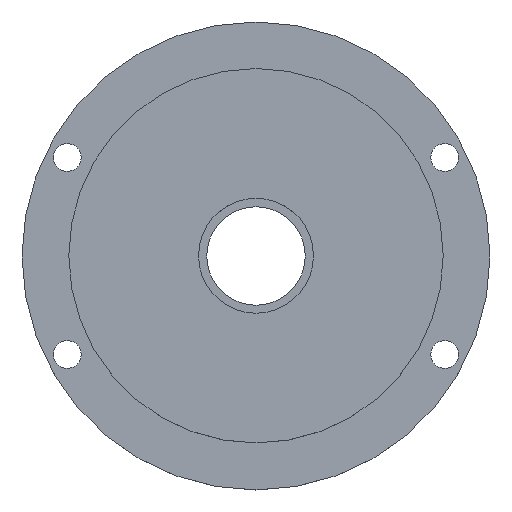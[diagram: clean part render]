
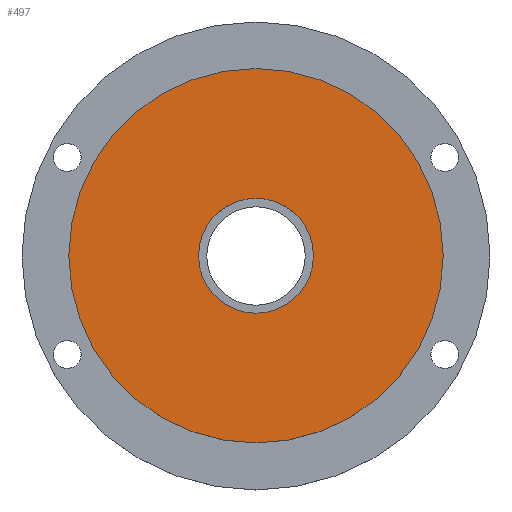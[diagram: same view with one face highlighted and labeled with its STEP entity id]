
A CAD part, top view. The second image highlights one B-rep face of the part: STEP entity #497.
In plain terms, the highlighted planar face has unit normal (0, 0, 1).
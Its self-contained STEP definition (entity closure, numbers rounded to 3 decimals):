
#451 = EDGE_CURVE('',#452,#452,#454,.T.);
#452 = VERTEX_POINT('',#453);
#453 = CARTESIAN_POINT('',(22.8,0.,168.));
#454 = CIRCLE('',#455,22.8);
#455 = AXIS2_PLACEMENT_3D('',#456,#457,#458);
#456 = CARTESIAN_POINT('',(0.,0.,168.));
#457 = DIRECTION('',(0.,0.,1.));
#458 = DIRECTION('',(1.,0.,0.));
#476 = EDGE_CURVE('',#477,#477,#479,.T.);
#477 = VERTEX_POINT('',#478);
#478 = CARTESIAN_POINT('',(7.,0.,168.));
#479 = CIRCLE('',#480,7.);
#480 = AXIS2_PLACEMENT_3D('',#481,#482,#483);
#481 = CARTESIAN_POINT('',(0.,0.,168.));
#482 = DIRECTION('',(0.,0.,1.));
#483 = DIRECTION('',(1.,0.,0.));
#497 = ADVANCED_FACE('',(#498,#501),#504,.T.);
#498 = FACE_BOUND('',#499,.T.);
#499 = EDGE_LOOP('',(#500));
#500 = ORIENTED_EDGE('',*,*,#451,.T.);
#501 = FACE_BOUND('',#502,.T.);
#502 = EDGE_LOOP('',(#503));
#503 = ORIENTED_EDGE('',*,*,#476,.F.);
#504 = PLANE('',#505);
#505 = AXIS2_PLACEMENT_3D('',#506,#507,#508);
#506 = CARTESIAN_POINT('',(0.,0.,168.));
#507 = DIRECTION('',(0.,0.,1.));
#508 = DIRECTION('',(1.,0.,0.));
